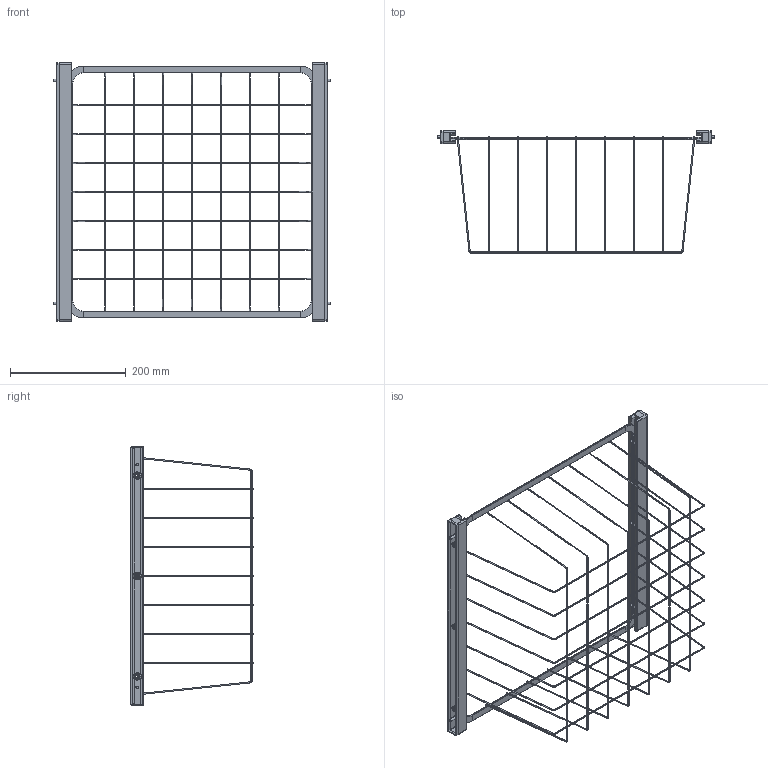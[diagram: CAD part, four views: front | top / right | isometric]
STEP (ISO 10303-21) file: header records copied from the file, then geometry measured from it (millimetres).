
FILE_DESCRIPTION (( 'STEP AP203' ), '1' );
FILE_NAME ('LM284+LM214.STEP', '2023-03-07T07:30:30', ( '' ), ( '' ), 'SwSTEP 2.0', 'SolidWorks 2021', '' );
FILE_SCHEMA (( 'CONFIG_CONTROL_DESIGN' ));
Length unit declared in the file: millimetre
Products named in the file (3): 11292_Default<As Machined>; 10123_Default<As Machined>; LM284+LM214
Assembly tree (3 placements, depth 2):
  LM284+LM214
    10123_Default<As Machined>
    11292_Default<As Machined>  x2
Bounding box: 479 x 211 x 447 mm (x, y, z)
Volume: 279522.6 mm3; surface area: 334307.5 mm2
Topology: 28 solids, 28 shells, 712 faces, 1682 edges, 1000 vertices
Faces by surface type: cylinder 306, plane 174, torus 120, bspline 56, cone 32, sphere 24
Entity records: 15367 total; most frequent: CARTESIAN_POINT 3112, DIRECTION 2786, ORIENTED_EDGE 2384, EDGE_CURVE 1192, AXIS2_PLACEMENT_3D 1186, VERTEX_POINT 716, CIRCLE 682, EDGE_LOOP 534
